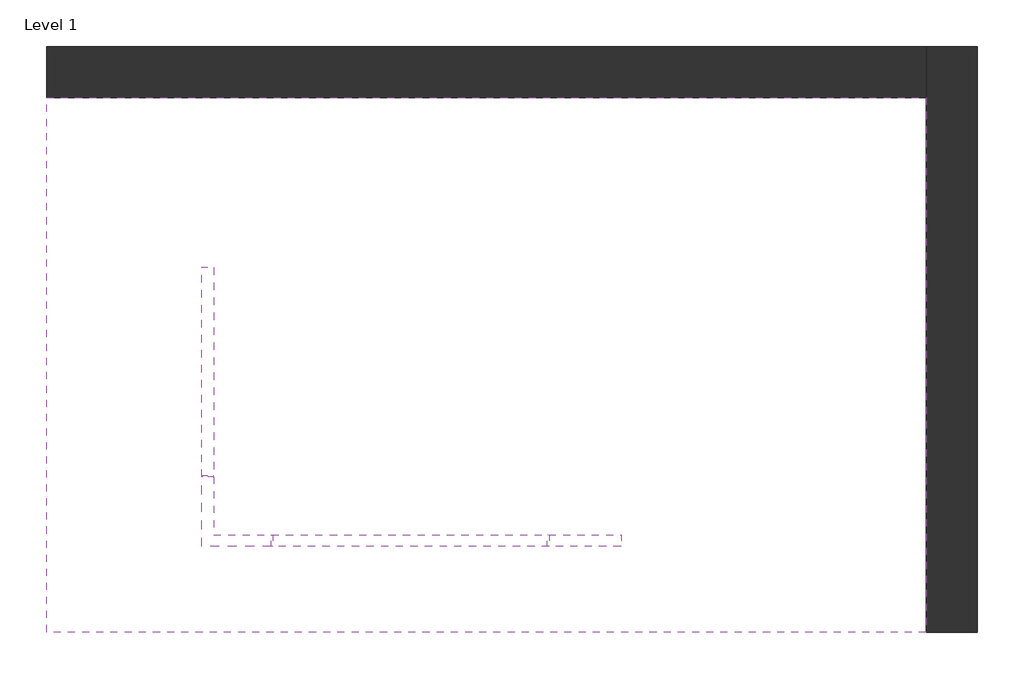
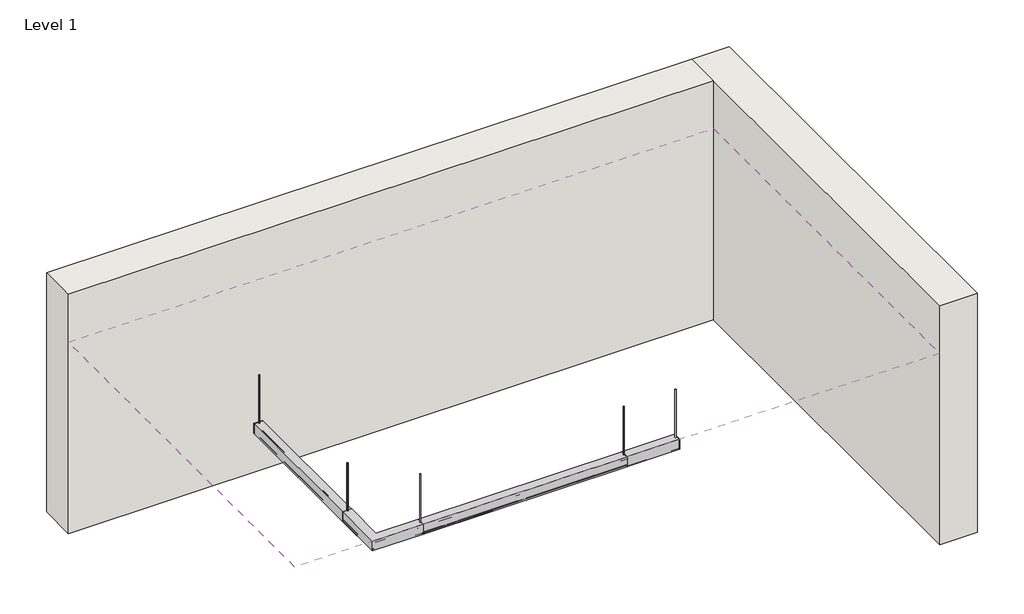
# One storey: 4 light fixtures, 2 walls, 1 covering.
"""IFC4 building model written with IfcOpenShell, lengths in millimetres."""

from ifc_helpers import new_model, si_unit, frame, origin, origin_with_axes, place, context, project, spatial, polyline, outline, extrude, faceted_brep, transform, mapped, element, save
from components import lighting_pendant_axis_extend_4_c51e4468, lighting_pendant_axis_extend_4_bea8cebc, lighting_pendant_axis_extend_4_d1321fe8, lighting_pendant_axis_extend_4_corner_2x2_686a5cb6

model = new_model("IFC4")

# Units and contexts
model_context = context("Model", 3, world=origin())
ifc_project = project(units=[si_unit("LENGTHUNIT", "METRE", prefix="MILLI")], contexts=[model_context])

# Site, building, storey
site = spatial("IfcSite", under=ifc_project)
building = spatial("IfcBuilding", under=site)
storey = spatial("IfcBuildingStorey", under=building, Name="Level 1", Elevation=0.0)

# Covering
placement = place(None, origin())
element("IfcCovering", 1, ObjectType="2' x 4' ACT System", at=placement, inside=storey, context=model_context, shape_type="SweptSolid", body=[
    extrude(outline(polyline([(-4065.5199774, 6283.1270347), (3706.8800226, 6283.1270347), (3706.8800226, 1558.7270347), (-4065.5199774, 1558.7270347), (-4065.5199774, 6283.1270347)])), frame((0.0, 0.0, 2438.4), z_axis=(0.0, 0.0, 1.0), x_axis=(1.0, 0.0, 0.0)), (0.0, 0.0, 1.0), 57.15),
])

# Light fixtures
lighting_pendant_axis_extend_4_shape = lighting_pendant_axis_extend_4_c51e4468(model_context)
element("IfcLightFixture", 2, ObjectType="Lighting-Pendant-Axis-Extend_4 : EX4PD-900-80-35-SO-4", at=placement, inside=storey, context=model_context, shape_type="MappedRepresentation", body=[
    mapped(lighting_pendant_axis_extend_4_shape, transform((-851.3313357, 2367.4698565, 2438.4), x_axis=(1.0, 0.0, 0.0), y_axis=(0.0, -1.0, 0.0), z_axis=(0.0, 0.0, -1.0))),
])
lighting_pendant_axis_extend_4_2_shape = lighting_pendant_axis_extend_4_bea8cebc(model_context)
element("IfcLightFixture", 3, ObjectType="Lighting-Pendant-Axis-Extend_4 : EX4PD-900-80-35-SO-4", at=placement, inside=storey, context=model_context, shape_type="MappedRepresentation", body=[
    mapped(lighting_pendant_axis_extend_4_2_shape, transform((-2641.2401257, 3852.5786465, 2438.4), x_axis=(0.0, 1.0, 0.0), y_axis=(1.0, 0.0, 0.0), z_axis=(0.0, 0.0, -1.0))),
])
lighting_pendant_axis_extend_4_3_shape = lighting_pendant_axis_extend_4_d1321fe8(model_context)
element("IfcLightFixture", 4, ObjectType="Lighting-Pendant-Axis-Extend_4 : EX4PD-900-80-35-SO-4", at=placement, inside=storey, context=model_context, shape_type="MappedRepresentation", body=[
    mapped(lighting_pendant_axis_extend_4_3_shape, transform((686.5624643, 2367.4698565, 2438.4), x_axis=(1.0, 0.0, 0.0), y_axis=(0.0, -1.0, 0.0), z_axis=(0.0, 0.0, -1.0))),
])
lighting_pendant_axis_extend_4_corner_2x2_shape = lighting_pendant_axis_extend_4_corner_2x2_686a5cb6(model_context)
element("IfcLightFixture", 5, ObjectType="Lighting-Pendant-Axis-Extend_4-Corner : 2x2", at=placement, inside=storey, context=model_context, shape_type="MappedRepresentation", body=[
    mapped(lighting_pendant_axis_extend_4_corner_2x2_shape, transform((-2641.2401257, 2367.4698565, 2438.4), x_axis=(0.0, -1.0, 0.0), y_axis=(-1.0, 0.0, 0.0), z_axis=(0.0, 0.0, -1.0))),
])

# Walls
element("IfcWall", 6, ObjectType="Exterior - CMU on Mtl. Stud", at=placement, inside=storey, context=model_context, shape_type="Brep", body=[
    faceted_brep([(4160.9050226, 1558.7270347, 0.0), (4160.9050226, 6737.1520347, 0.0), (4160.9050226, 6737.1520347, 3048.0), (4160.9050226, 1558.7270347, 3048.0), (3706.8800226, 1558.7270347, 0.0), (3706.8800226, 1558.7270347, 3048.0), (3706.8800226, 6283.1270347, 3048.0), (3706.8800226, 6737.1520347, 3048.0), (3706.8800226, 6737.1520347, 0.0), (3706.8800226, 6283.1270347, 0.0)], [[[0, 1, 2, 3]], [[4, 5, 6, 7, 8, 9]], [[1, 0, 4, 9, 8]], [[3, 2, 7, 6, 5]], [[0, 3, 5, 4]], [[2, 1, 8, 7]]]),
])
element("IfcWall", 7, ObjectType="Exterior - CMU on Mtl. Stud", at=placement, inside=storey, context=model_context, shape_type="SweptSolid", body=[
    extrude(outline(polyline([(-4065.5199774, 6737.1520347), (3706.8800226, 6737.1520347), (3706.8800226, 6283.1270347), (-4065.5199774, 6283.1270347), (-4065.5199774, 6737.1520347)])), origin_with_axes(), (0.0, 0.0, 1.0), 3048.0),
])

save(model, "model.ifc")
